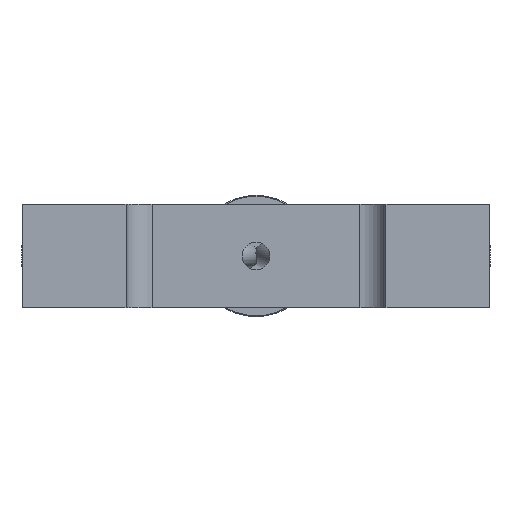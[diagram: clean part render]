
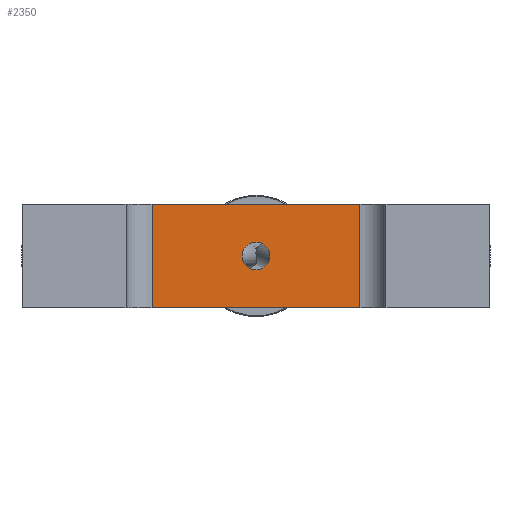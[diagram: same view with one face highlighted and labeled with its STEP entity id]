
A CAD part, left-side view. The second image highlights one B-rep face of the part: STEP entity #2350.
In plain terms, the highlighted planar face has unit normal (-1, 0, 0).
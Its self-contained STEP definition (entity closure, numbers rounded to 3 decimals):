
#112=LINE($,#4263,#200);
#114=LINE($,#4269,#202);
#115=LINE($,#4271,#203);
#116=LINE($,#4272,#204);
#200=VECTOR($,#3333,12.);
#202=VECTOR($,#3339,24.);
#203=VECTOR($,#3340,12.);
#204=VECTOR($,#3341,24.);
#307=PLANE($,#2666);
#402=FACE_BOUND($,#790,.T.);
#403=FACE_BOUND($,#791,.T.);
#790=EDGE_LOOP($,(#1908));
#791=EDGE_LOOP($,(#1909,#1910,#1911,#1912));
#958=CIRCLE($,#2655,1.6);
#1146=VERTEX_POINT($,#4244);
#1153=VERTEX_POINT($,#4260);
#1154=VERTEX_POINT($,#4262);
#1156=VERTEX_POINT($,#4268);
#1157=VERTEX_POINT($,#4270);
#1404=EDGE_CURVE($,#1146,#1146,#958,.T.);
#1411=EDGE_CURVE($,#1153,#1154,#112,.T.);
#1414=EDGE_CURVE($,#1153,#1156,#114,.T.);
#1415=EDGE_CURVE($,#1157,#1156,#115,.T.);
#1416=EDGE_CURVE($,#1157,#1154,#116,.T.);
#1908=ORIENTED_EDGE($,*,*,#1404,.T.);
#1909=ORIENTED_EDGE($,*,*,#1411,.F.);
#1910=ORIENTED_EDGE($,*,*,#1414,.T.);
#1911=ORIENTED_EDGE($,*,*,#1415,.F.);
#1912=ORIENTED_EDGE($,*,*,#1416,.T.);
#2350=ADVANCED_FACE($,(#402,#403),#307,.T.);
#2655=AXIS2_PLACEMENT_3D($,#4245,#3313,#3314);
#2666=AXIS2_PLACEMENT_3D($,#4267,#3337,#3338);
#3313=DIRECTION('center_axis',(1.,0.,0.));
#3314=DIRECTION('ref_axis',(0.,0.,-1.));
#3333=DIRECTION($,(0.,0.,1.));
#3337=DIRECTION('center_axis',(-1.,0.,0.));
#3338=DIRECTION('ref_axis',(0.,0.,1.));
#3339=DIRECTION($,(0.,-1.,0.));
#3340=DIRECTION($,(0.,0.,-1.));
#3341=DIRECTION($,(0.,1.,0.));
#4244=CARTESIAN_POINT('',(12.,0.,7.6));
#4245=CARTESIAN_POINT('Origin',(12.,0.,6.));
#4260=CARTESIAN_POINT('',(12.,12.,0.));
#4262=CARTESIAN_POINT('',(12.,12.,12.));
#4263=CARTESIAN_POINT($,(12.,12.,0.));
#4267=CARTESIAN_POINT('Origin',(12.,-15.,0.));
#4268=CARTESIAN_POINT('',(12.,-12.,0.));
#4269=CARTESIAN_POINT($,(12.,15.,0.));
#4270=CARTESIAN_POINT('',(12.,-12.,12.));
#4271=CARTESIAN_POINT($,(12.,-12.,0.));
#4272=CARTESIAN_POINT($,(12.,15.,12.));
